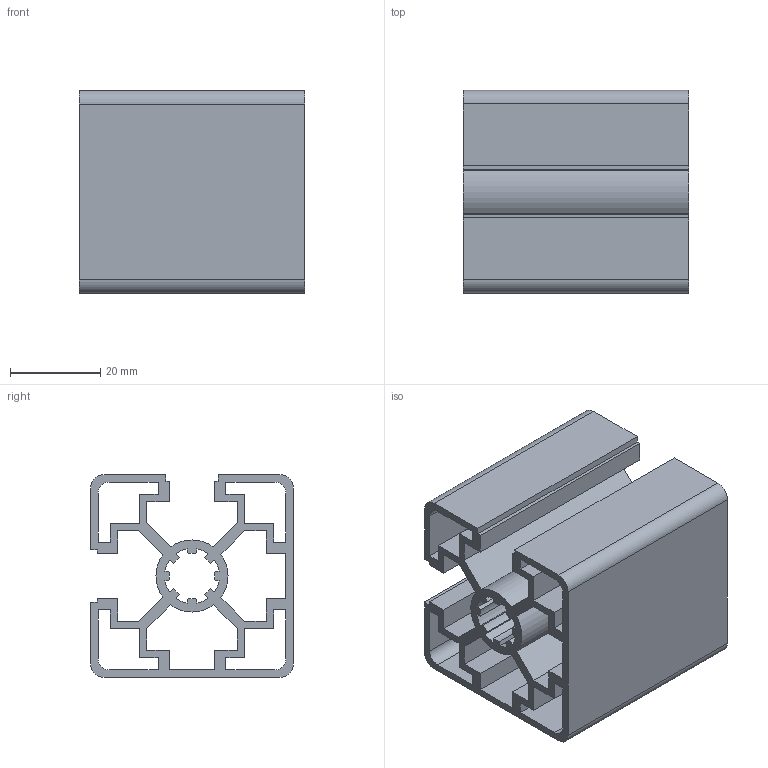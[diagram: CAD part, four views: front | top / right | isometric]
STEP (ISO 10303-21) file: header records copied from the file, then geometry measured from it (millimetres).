
FILE_DESCRIPTION(('no description'),'unknown implementation level');
FILE_NAME('3842992402_131338220.stp',' ',('Bosch Rexroth AG'),('CADClick - KiM GmbH - www.kimweb.de'),'unknown preprocess','ACIS','unknown authorization');
FILE_SCHEMA(('automotive_design'));
Length unit declared in the file: millimetre
Products named in the file (1): 1
Bounding box: 50 x 45 x 45 mm (x, y, z)
Volume: 31440 mm3; surface area: 34138.6 mm2
Topology: 1 solids, 1 shells, 126 faces, 372 edges, 248 vertices
Faces by surface type: plane 98, cylinder 28
Entity records: 8332 total; most frequent: STYLED_ITEM 747, PRESENTATION_STYLE_ASSIGNMENT 747, CARTESIAN_POINT 747, COLOUR_RGB 747, ORIENTED_EDGE 744, DIRECTION 682, EDGE_CURVE 372, CURVE_STYLE 372
